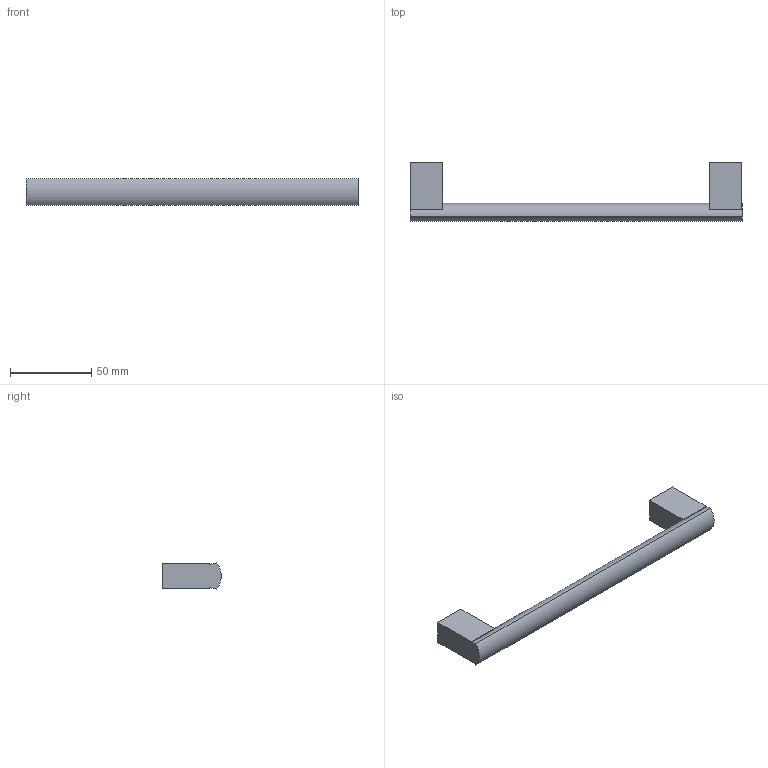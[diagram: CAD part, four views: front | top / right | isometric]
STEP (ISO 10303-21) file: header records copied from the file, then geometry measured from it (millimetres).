
FILE_DESCRIPTION( ( 'STEP AP214' ), '1' );
FILE_NAME( 'D:/Shahbaz D&D/Task/Check and correct handles with 3 drill sockets/Clivia/115354.stp', '2023-02-20T10:36:35', ( '' ), ( '' ), ' ', 'PARTsolutions', ' ' );
FILE_SCHEMA( ( 'AUTOMOTIVE_DESIGN { 1 0 10303 214 1 1 1 1 }' ) );
Length unit declared in the file: millimetre
Products named in the file (1): _115354
Bounding box: 204 x 35.96 x 16 mm (x, y, z)
Volume: 42843.1 mm3; surface area: 13035.2 mm2
Topology: 1 solids, 1 shells, 21 faces, 48 edges, 32 vertices
Faces by surface type: plane 17, cylinder 4
Full cylindrical faces by diameter (mm): 4 x2
Entity records: 768 total; most frequent: DIRECTION 102, CARTESIAN_POINT 100, ORIENTED_EDGE 92, EDGE_CURVE 46, AXIS2_PLACEMENT_3D 34, LINE 34, VECTOR 34, VERTEX_POINT 32
